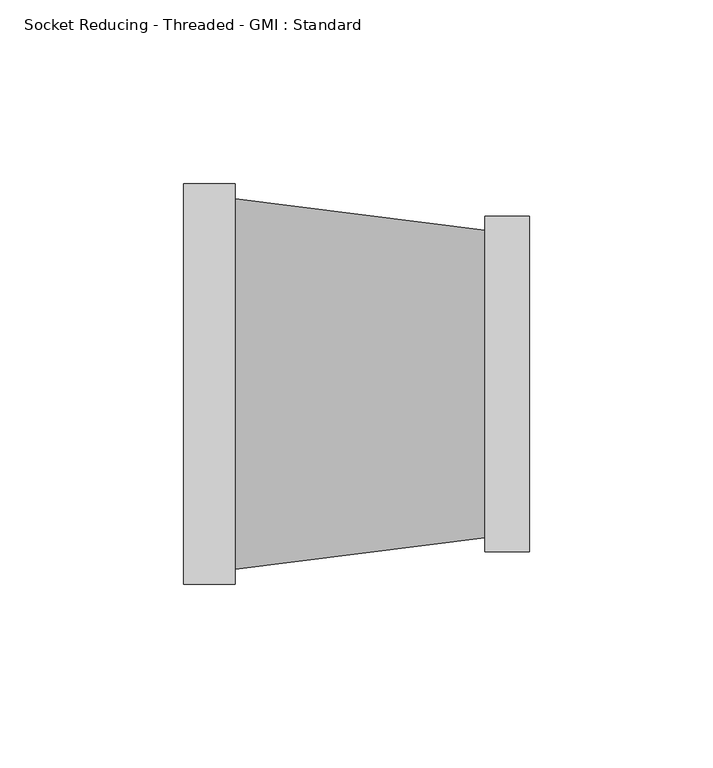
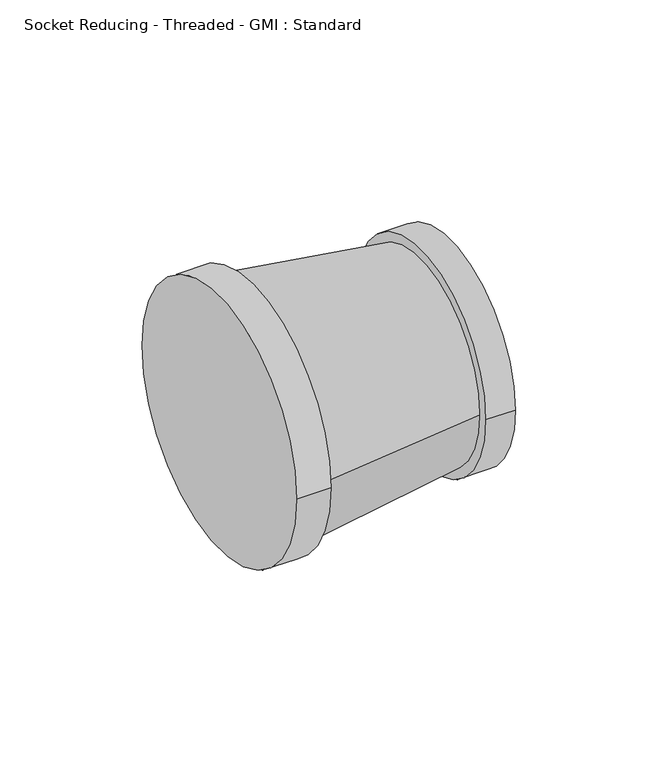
"""IFC4 building model written with IfcOpenShell, lengths in millimetres: pipe fitting geometry, Socket Reducing - Threaded - GMI : Standard."""

from ifc_helpers import new_model, si_unit, point, frame, origin, origin_2d, place, context, project, spatial, polyline, circle_curve, trimmed, segment, composite_curve, outline, extrude, source, transform, mapped, element, save
from ifc_brep_helpers import plane_surface, revolved_surface, advanced_brep


def socket_reducing_threaded_gmi_standard_d68732cd(model_context):
    return source(origin(), model_context, "Body", "SolidModel", [
        extrude(outline(composite_curve([segment(trimmed(circle_curve(origin_2d(), 45.6), [point((-45.6, 0.0))], [point((45.6, 0.0))], False, "CARTESIAN"), True, "CONTINUOUS"), segment(trimmed(circle_curve(origin_2d(), 45.6), [point((45.6, 0.0))], [point((-45.6, 0.0))], False, "CARTESIAN"), True, "CONTINUOUS")], self_intersect=False)), frame((81.9, 0.0, 0.0), z_axis=(1.0, 0.0, 0.0), x_axis=(0.0, 1.0, 0.0)), (0.0, 0.0, 1.0), 12.1),
        advanced_brep(
        [(81.9, -41.83, 0.0), (81.9, 41.83, 0.0), (13.9, -50.32, 0.0), (13.9, 50.32, 0.0)],
        [
            (0, 1, circle_curve(frame((81.9, 0.0, 0.0), z_axis=(1.0, 0.0, 0.0), x_axis=(0.0, -1.0, 0.0)), 41.83)),
            (1, 0, circle_curve(frame((81.9, 0.0, 0.0), z_axis=(1.0, 0.0, 0.0), x_axis=(0.0, 1.0, 0.0)), 41.83)),
            (2, 3, circle_curve(frame((13.9, 0.0, 0.0), z_axis=(-1.0, 0.0, 0.0), x_axis=(0.0, 1.0, 0.0)), 50.32)),
            (3, 2, circle_curve(frame((13.9, 0.0, 0.0), z_axis=(-1.0, 0.0, 0.0), x_axis=(0.0, -1.0, 0.0)), 50.32)),
            (3, 1),
            (0, 2),
        ],
        [
            plane_surface(frame((81.9, 0.0, 0.0), z_axis=(1.0, 0.0, 0.0), x_axis=(0.0, 0.0, -1.0))),
            plane_surface(frame((13.9, 0.0, 0.0), z_axis=(-1.0, 0.0, 0.0), x_axis=(0.0, 0.0, -1.0))),
            revolved_surface(polyline([(81.89999999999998, -41.82999999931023, 0.0), (13.899999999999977, -50.32, 0.0)]), (416.9341578, 0.0, 0.0), (-1.0, 0.0, 0.0)),
            revolved_surface(polyline([(81.89999999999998, 41.82999999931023, 0.0), (13.899999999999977, 50.32, 0.0)]), (416.9341578, 0.0, 0.0), (-1.0, 0.0, 0.0)),
        ],
        [
            (0, [[1, 2]]),
            (1, [[3, 4]]),
            (2, [[-4, 5, -1, 6]]),
            (3, [[-3, -6, -2, -5]]),
        ],
    ),
        extrude(outline(composite_curve([segment(trimmed(circle_curve(origin_2d(), 54.4), [point((-54.4, 0.0))], [point((54.4, 0.0))], False, "CARTESIAN"), True, "CONTINUOUS"), segment(trimmed(circle_curve(origin_2d(), 54.4), [point((54.4, 0.0))], [point((-54.4, 0.0))], False, "CARTESIAN"), True, "CONTINUOUS")], self_intersect=False)), frame((0.0, 0.0, 0.0), z_axis=(1.0, 0.0, 0.0), x_axis=(0.0, 1.0, 0.0)), (0.0, 0.0, 1.0), 13.9),
    ])


if __name__ == "__main__":
    model = new_model("IFC4")
    model_context = context("Model", 3, world=origin())
    ifc_project = project(units=[si_unit("LENGTHUNIT", "METRE", prefix="MILLI")], contexts=[model_context])
    site = spatial("IfcSite", under=ifc_project)
    building = spatial("IfcBuilding", under=site)
    placement = place(None, origin())
    socket_reducing_threaded_gmi_standard_shape = socket_reducing_threaded_gmi_standard_d68732cd(model_context)
    element("IfcPipeFitting", 1, ObjectType="Socket Reducing - Threaded - GMI : Standard", at=placement, inside=building, context=model_context, shape_type="MappedRepresentation", body=[
        mapped(socket_reducing_threaded_gmi_standard_shape, transform((0.0, 0.0, 0.0), x_axis=(1.0, 0.0, 0.0), y_axis=(0.0, 1.0, 0.0), z_axis=(0.0, 0.0, 1.0))),
    ])
    save(model, "model.ifc")
